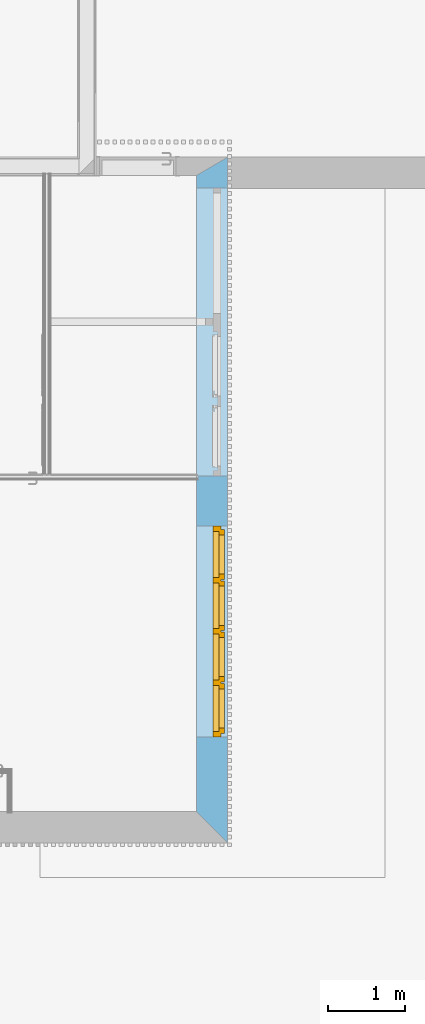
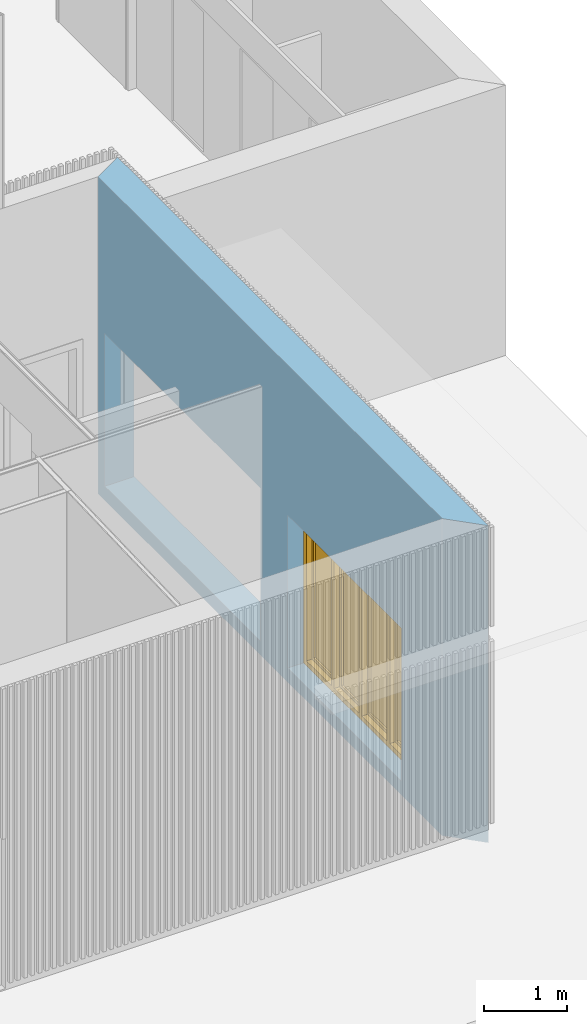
# One storey, part 10 of 34: 1 window, 2 openings, plus 1 element that does not belong to this part.
"""IFC2X3 building model written with IfcOpenShell, lengths in metres."""

import ifcopenshell
import ifcopenshell.guid

model = None  # the IFC model being written
_history = None  # IfcOwnerHistory: only IFC2X3 demands one
_inside = {}  # id of a spatial element -> (the spatial element, [elements in it])
_under = {}  # id of a project, library or spatial element -> (it, [spatial elements below it])
_declared = {}  # id of a project -> (the project, [libraries it declares])
_typed = {}  # id of a type object -> (the type object, [elements of that type])
_made_of = {}  # id of a material, layer set ... -> (it, [elements and type objects made of it])


def new_model(schema):
    """Start an empty IFC model of exactly this schema.

    Asked for "IFC4X3", IfcOpenShell would pick the latest addendum, in which some entities
    have other attributes; the version numbers below select the first issue.
    IFC2X3 requires an IfcOwnerHistory on every rooted entity: one is made here for all.
    """
    global model, _history
    if schema == "IFC4X3":
        model = ifcopenshell.file(schema_version=(4, 3, 0, 0))
    else:
        model = ifcopenshell.file(schema=schema)
    _inside.clear()
    _under.clear()
    _declared.clear()
    _typed.clear()
    _made_of.clear()
    _history = None
    if model.schema == "IFC2X3":
        org = make("IfcOrganization", Name="unknown")
        user = make(
            "IfcPersonAndOrganization",
            ThePerson=make("IfcPerson", FamilyName="unknown"),
            TheOrganization=org,
        )
        app = make(
            "IfcApplication",
            ApplicationDeveloper=org,
            Version="unknown",
            ApplicationFullName="unknown",
            ApplicationIdentifier="unknown",
        )
        _history = make(
            "IfcOwnerHistory",
            OwningUser=user,
            OwningApplication=app,
            ChangeAction="ADDED",
            CreationDate=0,
        )
    return model


def make(cls, **values):
    """One entity of the class cls with the attributes given. An attribute that is None is left unset."""
    return model.create_entity(
        cls, **{name: value for name, value in values.items() if value is not None}
    )


def entity(cls, *values):
    """Any entity or typed value of the class cls, its attributes in the order of the schema. None: left unset."""
    e = model.create_entity(cls)
    for i, value in enumerate(values):
        if value is not None:
            e[i] = value
    return e


def rooted(cls, **values):
    """An entity with a GlobalId (a new one), such as an element, a storey or a relation."""
    return make(cls, GlobalId=ifcopenshell.guid.new(), OwnerHistory=_history, **values)


def si_unit(unit_type, name, prefix=None):
    """IfcSIUnit, for example si_unit("LENGTHUNIT", "METRE", prefix="MILLI")."""
    return make("IfcSIUnit", UnitType=unit_type, Prefix=prefix, Name=name)


def converted_unit(unit_type, name, factor, base, dimensions=None, offset=None):
    """IfcConversionBasedUnit, such as the inch: factor (a typed value) times the base unit."""
    return make(
        "IfcConversionBasedUnit"
        if offset is None
        else "IfcConversionBasedUnitWithOffset",
        ConversionOffset=offset,
        Dimensions=None
        if dimensions is None
        else entity("IfcDimensionalExponents", *dimensions),
        UnitType=unit_type,
        Name=name,
        ConversionFactor=make(
            "IfcMeasureWithUnit", ValueComponent=factor, UnitComponent=base
        ),
    )


def derived_unit(unit_type, elements):
    """IfcDerivedUnit: a product of units, each with its exponent."""
    return make(
        "IfcDerivedUnit",
        Elements=[
            make("IfcDerivedUnitElement", Unit=unit, Exponent=power)
            for unit, power in elements
        ],
        UnitType=unit_type,
    )


def money_unit(currency):
    """IfcMonetaryUnit."""
    return make("IfcMonetaryUnit", Currency=currency)


def assignment(units):
    """IfcUnitAssignment: the units of a project."""
    return None if units is None else make("IfcUnitAssignment", Units=units)


def point(xyz):
    """IfcCartesianPoint."""
    return None if xyz is None else make("IfcCartesianPoint", Coordinates=xyz)


def direction(xyz):
    """IfcDirection."""
    return None if xyz is None else make("IfcDirection", DirectionRatios=xyz)


def frame(location, z_axis=None, x_axis=None):
    """IfcAxis2Placement3D, a coordinate frame: its origin and axes. An axis left out is left unset."""
    return make(
        "IfcAxis2Placement3D",
        Location=point(location),
        Axis=direction(z_axis),
        RefDirection=direction(x_axis),
    )


def frame_2d(location, x_axis=None):
    """IfcAxis2Placement2D, a coordinate frame in the plane: its origin and x axis."""
    return make(
        "IfcAxis2Placement2D", Location=point(location), RefDirection=direction(x_axis)
    )


def origin_with_axes():
    """The frame at (0, 0, 0) with the z axis (0, 0, 1) and the x axis (1, 0, 0) written out."""
    return frame((0.0, 0.0, 0.0), z_axis=(0.0, 0.0, 1.0), x_axis=(1.0, 0.0, 0.0))


def origin_2d_with_axis():
    """The frame at (0, 0) in the plane with the x axis (1, 0) written out."""
    return frame_2d((0.0, 0.0), x_axis=(1.0, 0.0))


def place(relative_to, where):
    """IfcLocalPlacement: puts the frame where relative to a parent placement (None: the world)."""
    return make(
        "IfcLocalPlacement", PlacementRelTo=relative_to, RelativePlacement=where
    )


def context(
    kind, dimensions, precision=None, world=None, true_north=None, identifier=None
):
    """IfcGeometricRepresentationContext, for example the 3D "Model" context."""
    return make(
        "IfcGeometricRepresentationContext",
        ContextIdentifier=identifier,
        ContextType=kind,
        CoordinateSpaceDimension=dimensions,
        Precision=precision,
        WorldCoordinateSystem=world,
        TrueNorth=true_north,
    )


def subcontext(parent, identifier, kind, view, scale=None):
    """IfcGeometricRepresentationSubContext, for example "Body" below "Model"."""
    return make(
        "IfcGeometricRepresentationSubContext",
        ContextIdentifier=identifier,
        ContextType=kind,
        ParentContext=parent,
        TargetScale=scale,
        TargetView=view,
    )


def project(units=None, contexts=None):
    """IfcProject with its units and contexts."""
    return rooted(
        "IfcProject",
        Name="project",
        RepresentationContexts=contexts,
        UnitsInContext=assignment(units),
    )


def spatial(cls, under=None, at=None, **own):
    """A site, building, storey or space (cls), placed at a placement, below another one or the project."""
    s = rooted(cls, ObjectPlacement=at, **own)
    if under is not None:
        _under.setdefault(under.id(), (under, []))[1].append(s)
    return s


def polyline(points):
    """IfcPolyline through the points."""
    return make("IfcPolyline", Points=[point(p) for p in points])


def profile(cls, at=None, kind="AREA", **sizes):
    """A parametric profile (cls). Its sizes go by their IFC names, for example OverallWidth=200.0."""
    return make(cls, ProfileType=kind, Position=at, **sizes)


def rectangle(**sizes):
    """IfcRectangleProfileDef."""
    return profile("IfcRectangleProfileDef", **sizes)


def outline(outer, holes=None, kind="AREA"):
    """IfcArbitraryClosedProfileDef: a profile drawn as a closed curve; with holes, ...WithVoids."""
    if holes is None:
        return make("IfcArbitraryClosedProfileDef", ProfileType=kind, OuterCurve=outer)
    return make(
        "IfcArbitraryProfileDefWithVoids",
        ProfileType=kind,
        OuterCurve=outer,
        InnerCurves=holes,
    )


def extrude(swept, where, along, depth):
    """IfcExtrudedAreaSolid: the profile swept, set in the frame where, extruded along a direction by depth."""
    return make(
        "IfcExtrudedAreaSolid",
        SweptArea=swept,
        Position=where,
        ExtrudedDirection=direction(along),
        Depth=depth,
    )


def faces_of(points, faces, orient=None, outer=None):
    """IfcFace entities. A face is a list of loops; a loop is a list of indices into points, from 0.

    orient and outer hold one flag for each loop. By default every Orientation is true, the
    first loop of a face is its IfcFaceOuterBound and the others are IfcFaceBound.
    """
    made = []
    for i, loops in enumerate(faces):
        bounds = []
        for j, loop in enumerate(loops):
            is_outer = j == 0 if outer is None else outer[i][j]
            bounds.append(
                make(
                    "IfcFaceOuterBound" if is_outer else "IfcFaceBound",
                    Bound=make("IfcPolyLoop", Polygon=[points[k] for k in loop]),
                    Orientation=True if orient is None else orient[i][j],
                )
            )
        made.append(make("IfcFace", Bounds=bounds))
    return made


def open_shell(faces, orient=None, outer=None):
    """The faces of one IfcOpenShell. surface_model builds it on its shared points."""
    return ("IfcOpenShell", faces, orient, outer)


def faceted_brep(points, faces, orient=None, outer=None, voids=None):
    """IfcFacetedBrep: a solid bounded by flat faces; with voids (closed shells), ...WithVoids."""
    shared = [point(p) for p in points]
    hull = make("IfcClosedShell", CfsFaces=faces_of(shared, faces, orient, outer))
    if voids is None:
        return make("IfcFacetedBrep", Outer=hull)
    return make(
        "IfcFacetedBrepWithVoids",
        Outer=hull,
        Voids=[
            make(cls, CfsFaces=faces_of(shared, fs, o, b)) for cls, fs, o, b in voids
        ],
    )


def surface_model(cls, points, shells):
    """IfcFaceBasedSurfaceModel or IfcShellBasedSurfaceModel (cls): surfaces that need not close."""
    shared = [point(p) for p in points]
    made = [make(c, CfsFaces=faces_of(shared, fs, o, b)) for c, fs, o, b in shells]
    if cls == "IfcFaceBasedSurfaceModel":
        return make(cls, FbsmFaces=made)
    return make(cls, SbsmBoundary=made)


def shape(context_of_items, identifier, shape_type, items):
    """IfcShapeRepresentation: the items that make up one representation, for example the "Body"."""
    return make(
        "IfcShapeRepresentation",
        ContextOfItems=context_of_items,
        RepresentationIdentifier=identifier,
        RepresentationType=shape_type,
        Items=items,
    )


def material(Name=None, Category=None):
    """IfcMaterial."""
    return make("IfcMaterial", Name=Name, Category=Category)


def layer(
    of_material, thickness, ventilated=None, Name=None, Category=None, Priority=None
):
    """IfcMaterialLayer: one layer of a wall or slab, of a material (None: an air gap)."""
    return make(
        "IfcMaterialLayer",
        Material=of_material,
        LayerThickness=thickness,
        IsVentilated=ventilated,
        Name=Name,
        Category=Category,
        Priority=Priority,
    )


def layer_set(layers, Name=None):
    """IfcMaterialLayerSet."""
    return make("IfcMaterialLayerSet", MaterialLayers=layers, LayerSetName=Name)


def layer_usage(for_layer_set, set_direction, sense, offset, extent=None):
    """IfcMaterialLayerSetUsage: how a layer set lies in its element."""
    return make(
        "IfcMaterialLayerSetUsage",
        ForLayerSet=for_layer_set,
        LayerSetDirection=set_direction,
        DirectionSense=sense,
        OffsetFromReferenceLine=offset,
        ReferenceExtent=extent,
    )


def made_of(thing, what):
    """Note that an element or type object is made of a material, layer set ...; save() writes the relation."""
    if what is not None:
        _made_of.setdefault(what.id(), (what, []))[1].append(thing)
    return thing


def type_object(cls, material=None, **own):
    """A type object (cls), such as IfcWallType, which elements share."""
    return made_of(rooted(cls, **own), material)


def element(
    cls,
    number,
    at=None,
    inside=None,
    cuts=None,
    type_object=None,
    material=None,
    context=None,
    identifier="Body",
    shape_type=None,
    held_by="IfcProductDefinitionShape",
    body=None,
    shapes=None,
    **own,
):
    """One element of the class cls, such as IfcWall. Its Tag is "e" and its number.

    at: its placement. inside: the storey or other place that contains it. cuts: it is an
    opening in that element (IfcRelVoidsElement). A single representation is given by context,
    identifier, shape_type and body (its items); several are given by shapes. held_by: the class
    of the entity that holds the representations. save() writes the other relations.
    """
    e = rooted(cls, Tag="e%d" % number, ObjectPlacement=at, **own)
    if body is not None:
        shapes = [shape(context, identifier, shape_type, body)]
    if shapes is not None:
        e.Representation = make(held_by, Representations=shapes)
    if inside is not None:
        _inside.setdefault(inside.id(), (inside, []))[1].append(e)
    if cuts is not None:
        rooted(
            "IfcRelVoidsElement", RelatingBuildingElement=cuts, RelatedOpeningElement=e
        )
    if type_object is not None:
        _typed.setdefault(type_object.id(), (type_object, []))[1].append(e)
    return made_of(e, material)


def fill(opening, filler):
    """IfcRelFillsElement: the door or window that sits in an opening."""
    return rooted(
        "IfcRelFillsElement",
        RelatingOpeningElement=opening,
        RelatedBuildingElement=filler,
    )


def aggregate(whole, parts):
    """IfcRelAggregates: a whole, such as a stair, and the parts it consists of."""
    return rooted("IfcRelAggregates", RelatingObject=whole, RelatedObjects=parts)


def save(model, path):
    """Write the relations noted so far, then the file.

    IfcRelAggregates (storeys below a building ...), IfcRelContainedInSpatialStructure (elements
    in a storey), IfcRelDefinesByType, IfcRelAssociatesMaterial and IfcRelDeclares: one each for
    every whole, place, type object, material and project.
    """
    for whole, parts in _under.values():
        aggregate(whole, parts)
    for where, things in _inside.values():
        rooted(
            "IfcRelContainedInSpatialStructure",
            RelatedElements=things,
            RelatingStructure=where,
        )
    for kind, things in _typed.values():
        rooted("IfcRelDefinesByType", RelatedObjects=things, RelatingType=kind)
    for what, things in _made_of.values():
        rooted("IfcRelAssociatesMaterial", RelatedObjects=things, RelatingMaterial=what)
    for by, libraries in _declared.values():
        rooted("IfcRelDeclares", RelatingContext=by, RelatedDefinitions=libraries)
    model.write(path)


model = new_model("IFC2X3")

# Units and contexts
model_context = context("Model", 3, precision=1e-05, world=origin_with_axes(), true_north=direction((0.0, 1.0)))
body_context = subcontext(model_context, "Body", "Model", "MODEL_VIEW")
ifc_project = project(units=[si_unit("LENGTHUNIT", "METRE"), si_unit("AREAUNIT", "SQUARE_METRE"), si_unit("VOLUMEUNIT", "CUBIC_METRE"), converted_unit("PLANEANGLEUNIT", "DEGREE", entity("IfcPlaneAngleMeasure", 0.0174532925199), si_unit("PLANEANGLEUNIT", "RADIAN"), dimensions=[0, 0, 0, 0, 0, 0, 0]), money_unit("CHF"), converted_unit("TIMEUNIT", "Year", entity("IfcTimeMeasure", 31556926.0), si_unit("TIMEUNIT", "SECOND"), dimensions=[0, 0, 1, 0, 0, 0, 0]), si_unit("MASSUNIT", "GRAM", prefix="KILO"), si_unit("THERMODYNAMICTEMPERATUREUNIT", "DEGREE_CELSIUS"), si_unit("LUMINOUSINTENSITYUNIT", "LUMEN"), si_unit("ENERGYUNIT", "JOULE", prefix="MEGA"), derived_unit("THERMALCONDUCTANCEUNIT", [(si_unit("POWERUNIT", "WATT"), 1), (si_unit("LENGTHUNIT", "METRE"), -1), (si_unit("THERMODYNAMICTEMPERATUREUNIT", "KELVIN"), -1)]), derived_unit("SPECIFICHEATCAPACITYUNIT", [(si_unit("ENERGYUNIT", "JOULE"), 1), (si_unit("MASSUNIT", "GRAM", prefix="KILO"), -1), (si_unit("THERMODYNAMICTEMPERATUREUNIT", "KELVIN"), -1)]), derived_unit("MASSDENSITYUNIT", [(si_unit("MASSUNIT", "GRAM", prefix="KILO"), 1), (si_unit("VOLUMEUNIT", "CUBIC_METRE"), -1)])], contexts=[model_context])

# Site, building, storey
site_placement = place(None, origin_with_axes())
site = spatial("IfcSite", under=ifc_project, at=site_placement, Name="Site", CompositionType="ELEMENT")
building_placement = place(site_placement, origin_with_axes())
building = spatial("IfcBuilding", under=site, at=building_placement, Name="Bâtiment", CompositionType="ELEMENT")
storey_placement = place(building_placement, origin_with_axes())
storey = spatial("IfcBuildingStorey", under=building, at=storey_placement, Name="Rez-de-chaussée", CompositionType="ELEMENT", Elevation=0.0)

# Wall, openings, window
ifc_material_1 = material(Name="Finition int - Enduit minéral")
ifc_layer_1 = layer(ifc_material_1, 0.01, ventilated="UNKNOWN")
ifc_material_2 = material(Name="Isolation - Fibres de bois")
ifc_layer_2 = layer(ifc_material_2, 0.18, ventilated="UNKNOWN")
ifc_material_3 = material(Name="Béton armé (Coulé)")
ifc_layer_3 = layer(ifc_material_3, 0.2, ventilated="UNKNOWN")
ifc_material_4 = material(Name="Finition int - Enduit plâtre")
ifc_layer_4 = layer(ifc_material_4, 0.02, ventilated="UNKNOWN")
ifc_layer_set = layer_set([ifc_layer_1, ifc_layer_2, ifc_layer_3, ifc_layer_4], Name="Mur 20cm + iso 18 + enduit")
ifc_layer_usage = layer_usage(ifc_layer_set, "AXIS2", "NEGATIVE", 0.29)
wall_type = type_object("IfcWallType", Name="Mur 20cm + iso 18 + enduit  410", PredefinedType="NOTDEFINED")
wall_placement = place(storey_placement, frame((33.7494697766, 15.07, -0.21), z_axis=(0.0, 0.0, 1.0), x_axis=(0.0, -1.0, 0.0)))
wall = element("IfcWallStandardCase", 1, at=wall_placement, inside=storey, type_object=wall_type, material=ifc_layer_usage, Name="Mur ext 20+18isolant", context=body_context, shape_type="SweptSolid", body=[
    extrude(outline(polyline([(0.19, -0.12), (8.48987433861, -0.12), (8.89987433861, 0.29), (-0.05, 0.29), (0.19, -0.12)])), origin_with_axes(), (0.0, 0.0, 1.0), 4.67),
])
opening_1_placement = place(wall_placement, frame((6.14, 0.0, 0.21), z_axis=(0.0, 0.0, 1.0), x_axis=(1.0, 0.0, 0.0)))
opening_1 = element("IfcOpeningElement", 2, at=opening_1_placement, cuts=wall, Name="FENETRE-005", context=body_context, shape_type="SweptSolid", body=[
    extrude(rectangle(XDim=2.75, YDim=2.25, at=origin_2d_with_axis()), frame((0.0, 0.2, 1.125), z_axis=(0.0, -1.0, 0.0), x_axis=(-1.0, 0.0, 0.0)), (0.0, 0.0, 1.0), 0.73),
    extrude(rectangle(XDim=2.75, YDim=2.25, at=origin_2d_with_axis()), frame((0.0, 0.2, 1.125), z_axis=(0.0, 1.0, 0.0), x_axis=(-1.0, 0.0, 0.0)), (0.0, 0.0, 1.0), 0.5),
])
opening_2_placement = place(wall_placement, frame((2.23000001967, 0.0, 0.21), z_axis=(0.0, 0.0, 1.0), x_axis=(1.0, 0.0, 0.0)))
element("IfcOpeningElement", 3, at=opening_2_placement, cuts=wall, Name="PORTE-PP90 A2 - PF1/2H", context=body_context, shape_type="SweptSolid", body=[
    extrude(rectangle(XDim=3.76, YDim=2.25, at=origin_2d_with_axis()), frame((0.0, 0.2, 1.125), z_axis=(0.0, 1.0, 0.0), x_axis=(1.0, 0.0, 0.0)), (0.0, 0.0, -1.0), 0.73),
    extrude(rectangle(XDim=3.76, YDim=2.25, at=origin_2d_with_axis()), frame((0.0, 0.2, 1.125), z_axis=(0.0, -1.0, 0.0), x_axis=(1.0, 0.0, 0.0)), (0.0, 0.0, -1.0), 0.5),
])
window_style = type_object("IfcWindowStyle", Name="Fenêtre horizontale à châssis multiples 26", ConstructionType="NOTDEFINED", OperationType="USERDEFINED", ParameterTakesPrecedence=False, Sizeable=False)
window_placement = place(opening_1_placement, frame((-1.375, 0.0, 0.0), z_axis=(0.0, 0.0, 1.0), x_axis=(1.0, 0.0, 0.0)))
window = element("IfcWindow", 4, at=window_placement, inside=storey, type_object=window_style, Name="FENETRE-005", ObjectType="WINDOW", OverallHeight=2.25, OverallWidth=2.75, context=body_context, shape_type="SurfaceModel", body=[
    faceted_brep([(2.705, 0.2, 2.18), (2.705, 0.175, 2.18), (2.68, 0.175, 2.18), (2.68, 0.1, 2.18), (2.75, 0.1, 2.18), (2.75, 0.2, 2.18), (2.705, 0.2, 0.07), (2.705, 0.175, 0.07), (2.68, 0.175, 0.07), (2.68, 0.1, 0.07), (2.75, 0.1, 0.07), (2.75, 0.2, 0.07)], [[[0, 1, 2, 3, 4, 5]], [[1, 0, 6, 7]], [[8, 2, 1, 7]], [[2, 8, 9, 3]], [[4, 3, 9, 10]], [[5, 4, 10, 11]], [[6, 0, 5, 11]], [[7, 6, 11, 10, 9, 8]]]),
    faceted_brep([(0.07, 0.175, 2.18), (0.045, 0.175, 2.18), (0.045, 0.2, 2.18), (0.0, 0.2, 2.18), (0.0, 0.1, 2.18), (0.07, 0.1, 2.18), (0.07, 0.175, 0.07), (0.045, 0.175, 0.07), (0.045, 0.2, 0.07), (0.0, 0.2, 0.07), (0.0, 0.1, 0.07), (0.07, 0.1, 0.07)], [[[0, 1, 2, 3, 4, 5]], [[1, 0, 6, 7]], [[8, 2, 1, 7]], [[2, 8, 9, 3]], [[9, 10, 4, 3]], [[10, 11, 5, 4]], [[6, 0, 5, 11]], [[7, 6, 11, 10, 9, 8]]]),
    faceted_brep([(1.365, 0.2, 2.18), (1.365, 0.2, 2.205), (0.715, 0.2, 2.205), (0.715, 0.2, 2.18), (0.695, 0.2, 2.18), (0.695, 0.2, 2.205), (0.045, 0.2, 2.205), (0.045, 0.2, 2.18), (0.0, 0.2, 2.18), (0.0, 0.2, 2.25), (2.75, 0.2, 2.25), (2.75, 0.2, 2.18), (2.705, 0.2, 2.18), (2.705, 0.2, 2.205), (2.055, 0.2, 2.205), (2.055, 0.2, 2.18), (2.035, 0.2, 2.18), (2.035, 0.2, 2.205), (1.385, 0.2, 2.205), (1.385, 0.2, 2.18), (1.365, 0.175, 2.18), (1.365, 0.175, 2.205), (0.715, 0.175, 2.205), (0.715, 0.175, 2.18), (0.74, 0.175, 2.18), (0.74, 0.1, 2.18), (0.67, 0.1, 2.18), (0.67, 0.175, 2.18), (0.695, 0.175, 2.18), (0.695, 0.175, 2.205), (0.045, 0.175, 2.205), (0.045, 0.175, 2.18), (0.07, 0.175, 2.18), (0.07, 0.1, 2.18), (0.0, 0.1, 2.18), (0.0, 0.1, 2.25), (2.75, 0.1, 2.25), (2.75, 0.1, 2.18), (2.705, 0.175, 2.18), (2.68, 0.1, 2.18), (2.68, 0.175, 2.18), (2.705, 0.175, 2.205), (2.055, 0.175, 2.205), (2.055, 0.175, 2.18), (2.035, 0.175, 2.18), (2.08, 0.175, 2.18), (2.08, 0.1, 2.18), (2.01, 0.1, 2.18), (2.01, 0.175, 2.18), (2.035, 0.175, 2.205), (1.385, 0.175, 2.205), (1.385, 0.175, 2.18), (1.41, 0.175, 2.18), (1.41, 0.1, 2.18), (1.34, 0.1, 2.18), (1.34, 0.175, 2.18)], [[[0, 1, 2, 3, 4, 5, 6, 7, 8, 9, 10, 11, 12, 13, 14, 15, 16, 17, 18, 19]], [[1, 0, 20, 21]], [[2, 1, 21, 22]], [[3, 2, 22, 23]], [[23, 24, 25, 26, 27, 28, 4, 3]], [[5, 4, 28, 29]], [[6, 5, 29, 30]], [[7, 6, 30, 31]], [[31, 32, 33, 34, 8, 7]], [[8, 34, 35, 9]], [[9, 35, 36, 10]], [[10, 36, 37, 11]], [[38, 12, 11, 37, 39, 40]], [[13, 12, 38, 41]], [[14, 13, 41, 42]], [[15, 14, 42, 43]], [[44, 16, 15, 43, 45, 46, 47, 48]], [[17, 16, 44, 49]], [[18, 17, 49, 50]], [[19, 18, 50, 51]], [[20, 0, 19, 51, 52, 53, 54, 55]], [[24, 23, 22, 21, 20, 55]], [[24, 55, 54, 25]], [[34, 33, 26, 25, 54, 53, 47, 46, 39, 37, 36, 35]], [[32, 27, 26, 33]], [[32, 31, 30, 29, 28, 27]], [[45, 40, 39, 46]], [[45, 43, 42, 41, 38, 40]], [[52, 48, 47, 53]], [[52, 51, 50, 49, 44, 48]]]),
    faceted_brep([(0.74, 0.175, 0.07), (0.715, 0.175, 0.07), (0.715, 0.2, 0.07), (0.695, 0.2, 0.07), (0.695, 0.175, 0.07), (0.67, 0.175, 0.07), (0.67, 0.1, 0.07), (0.74, 0.1, 0.07), (1.34, 0.175, 0.07), (1.365, 0.175, 0.07), (1.365, 0.175, 0.045), (0.715, 0.175, 0.045), (0.715, 0.2, 0.045), (1.365, 0.2, 0.045), (1.365, 0.2, 0.07), (1.385, 0.2, 0.07), (1.385, 0.2, 0.045), (2.035, 0.2, 0.045), (2.035, 0.2, 0.07), (2.055, 0.2, 0.07), (2.055, 0.2, 0.045), (2.705, 0.2, 0.045), (2.705, 0.2, 0.07), (2.75, 0.2, 0.07), (2.75, 0.2, 0.0), (0.0, 0.2, 0.0), (0.0, 0.2, 0.07), (0.045, 0.2, 0.07), (0.045, 0.2, 0.045), (0.695, 0.2, 0.045), (0.695, 0.175, 0.045), (0.045, 0.175, 0.07), (0.07, 0.175, 0.07), (0.045, 0.175, 0.045), (0.07, 0.1, 0.07), (0.0, 0.1, 0.07), (0.0, 0.1, 0.0), (2.75, 0.1, 0.0), (2.75, 0.1, 0.07), (2.68, 0.1, 0.07), (2.08, 0.1, 0.07), (2.01, 0.1, 0.07), (1.41, 0.1, 0.07), (1.34, 0.1, 0.07), (1.41, 0.175, 0.07), (1.385, 0.175, 0.07), (1.385, 0.175, 0.045), (2.035, 0.175, 0.045), (2.035, 0.175, 0.07), (2.01, 0.175, 0.07), (2.08, 0.175, 0.07), (2.055, 0.175, 0.07), (2.055, 0.175, 0.045), (2.705, 0.175, 0.045), (2.705, 0.175, 0.07), (2.68, 0.175, 0.07)], [[[0, 1, 2, 3, 4, 5, 6, 7]], [[1, 0, 8, 9, 10, 11]], [[12, 2, 1, 11]], [[13, 14, 15, 16, 17, 18, 19, 20, 21, 22, 23, 24, 25, 26, 27, 28, 29, 3, 2, 12]], [[4, 3, 29, 30]], [[31, 32, 5, 4, 30, 33]], [[5, 32, 34, 6]], [[7, 6, 34, 35, 36, 37, 38, 39, 40, 41, 42, 43]], [[8, 0, 7, 43]], [[9, 8, 43, 42, 44, 45, 15, 14]], [[9, 14, 13, 10]], [[13, 12, 11, 10]], [[16, 15, 45, 46]], [[17, 16, 46, 47]], [[48, 18, 17, 47]], [[48, 49, 41, 40, 50, 51, 19, 18]], [[20, 19, 51, 52]], [[21, 20, 52, 53]], [[54, 22, 21, 53]], [[54, 55, 39, 38, 23, 22]], [[23, 38, 37, 24]], [[24, 37, 36, 25]], [[25, 36, 35, 26]], [[32, 31, 27, 26, 35, 34]], [[28, 27, 31, 33]], [[29, 28, 33, 30]], [[55, 50, 40, 39]], [[49, 44, 42, 41]], [[45, 44, 49, 48, 47, 46]], [[51, 50, 55, 54, 53, 52]]]),
    faceted_brep([(2.035, 0.2, 2.18), (2.035, 0.175, 2.18), (2.01, 0.175, 2.18), (2.01, 0.1, 2.18), (2.08, 0.1, 2.18), (2.08, 0.175, 2.18), (2.055, 0.175, 2.18), (2.055, 0.2, 2.18), (2.035, 0.2, 0.07), (2.035, 0.175, 0.07), (2.01, 0.175, 0.07), (2.01, 0.1, 0.07), (2.08, 0.1, 0.07), (2.08, 0.175, 0.07), (2.055, 0.175, 0.07), (2.055, 0.2, 0.07)], [[[0, 1, 2, 3, 4, 5, 6, 7]], [[1, 0, 8, 9]], [[10, 2, 1, 9]], [[2, 10, 11, 3]], [[3, 11, 12, 4]], [[13, 5, 4, 12]], [[6, 5, 13, 14]], [[15, 7, 6, 14]], [[8, 0, 7, 15]], [[9, 8, 15, 14, 13, 12, 11, 10]]]),
    faceted_brep([(1.365, 0.2, 2.18), (1.365, 0.175, 2.18), (1.34, 0.175, 2.18), (1.34, 0.1, 2.18), (1.41, 0.1, 2.18), (1.41, 0.175, 2.18), (1.385, 0.175, 2.18), (1.385, 0.2, 2.18), (1.365, 0.2, 0.07), (1.365, 0.175, 0.07), (1.34, 0.175, 0.07), (1.34, 0.1, 0.07), (1.41, 0.1, 0.07), (1.41, 0.175, 0.07), (1.385, 0.175, 0.07), (1.385, 0.2, 0.07)], [[[0, 1, 2, 3, 4, 5, 6, 7]], [[1, 0, 8, 9]], [[10, 2, 1, 9]], [[2, 10, 11, 3]], [[3, 11, 12, 4]], [[13, 5, 4, 12]], [[6, 5, 13, 14]], [[15, 7, 6, 14]], [[8, 0, 7, 15]], [[9, 8, 15, 14, 13, 12, 11, 10]]]),
    faceted_brep([(0.74, 0.175, 2.18), (0.715, 0.175, 2.18), (0.715, 0.2, 2.18), (0.695, 0.2, 2.18), (0.695, 0.175, 2.18), (0.67, 0.175, 2.18), (0.67, 0.1, 2.18), (0.74, 0.1, 2.18), (0.74, 0.175, 0.07), (0.715, 0.175, 0.07), (0.715, 0.2, 0.07), (0.695, 0.2, 0.07), (0.695, 0.175, 0.07), (0.67, 0.175, 0.07), (0.67, 0.1, 0.07), (0.74, 0.1, 0.07)], [[[0, 1, 2, 3, 4, 5, 6, 7]], [[1, 0, 8, 9]], [[10, 2, 1, 9]], [[2, 10, 11, 3]], [[4, 3, 11, 12]], [[13, 5, 4, 12]], [[5, 13, 14, 6]], [[6, 14, 15, 7]], [[8, 0, 7, 15]], [[9, 8, 15, 14, 13, 12, 11, 10]]]),
    faceted_brep([(2.635, 0.175, 2.135), (2.705, 0.175, 2.135), (2.705, 0.245, 2.135), (2.635, 0.245, 2.135), (2.635, 0.175, 0.115), (2.705, 0.175, 0.115), (2.705, 0.245, 0.115), (2.635, 0.245, 0.115)], [[[0, 1, 2, 3]], [[0, 4, 5, 1]], [[1, 5, 6, 2]], [[3, 2, 6, 7]], [[4, 0, 3, 7]], [[5, 4, 7, 6]]]),
    faceted_brep([(2.125, 0.175, 0.115), (2.055, 0.175, 0.115), (2.055, 0.245, 0.115), (2.125, 0.245, 0.115), (2.125, 0.175, 2.135), (2.055, 0.175, 2.135), (2.055, 0.245, 2.135), (2.125, 0.245, 2.135)], [[[0, 1, 2, 3]], [[0, 4, 5, 1]], [[1, 5, 6, 2]], [[3, 2, 6, 7]], [[4, 0, 3, 7]], [[5, 4, 7, 6]]]),
    faceted_brep([(2.055, 0.175, 0.045), (2.055, 0.175, 0.115), (2.055, 0.245, 0.115), (2.055, 0.245, 0.045), (2.705, 0.175, 0.045), (2.705, 0.175, 0.115), (2.635, 0.175, 0.115), (2.125, 0.175, 0.115), (2.125, 0.245, 0.115), (2.635, 0.245, 0.115), (2.705, 0.245, 0.115), (2.705, 0.245, 0.045)], [[[0, 1, 2, 3]], [[0, 4, 5, 6, 7, 1]], [[1, 7, 8, 2]], [[3, 2, 8, 9, 10, 11]], [[4, 0, 3, 11]], [[5, 4, 11, 10]], [[6, 5, 10, 9]], [[7, 6, 9, 8]]]),
    faceted_brep([(2.705, 0.175, 2.205), (2.705, 0.175, 2.135), (2.705, 0.245, 2.135), (2.705, 0.245, 2.205), (2.055, 0.175, 2.205), (2.055, 0.175, 2.135), (2.125, 0.175, 2.135), (2.635, 0.175, 2.135), (2.635, 0.245, 2.135), (2.125, 0.245, 2.135), (2.055, 0.245, 2.135), (2.055, 0.245, 2.205)], [[[0, 1, 2, 3]], [[0, 4, 5, 6, 7, 1]], [[1, 7, 8, 2]], [[3, 2, 8, 9, 10, 11]], [[4, 0, 3, 11]], [[5, 4, 11, 10]], [[6, 5, 10, 9]], [[7, 6, 9, 8]]]),
    surface_model("IfcShellBasedSurfaceModel", [(2.635, 0.2, 0.115), (2.635, 0.2, 2.135), (2.125, 0.2, 2.135), (2.125, 0.2, 0.115)], [open_shell([[[0, 1, 2, 3]]])]),
    surface_model("IfcShellBasedSurfaceModel", [(2.635, 0.22, 0.115), (2.125, 0.22, 0.115), (2.125, 0.22, 2.135), (2.635, 0.22, 2.135)], [open_shell([[[0, 1, 2, 3]]])]),
    faceted_brep([(1.965, 0.175, 2.135), (2.035, 0.175, 2.135), (2.035, 0.245, 2.135), (1.965, 0.245, 2.135), (1.965, 0.175, 0.115), (2.035, 0.175, 0.115), (2.035, 0.245, 0.115), (1.965, 0.245, 0.115)], [[[0, 1, 2, 3]], [[0, 4, 5, 1]], [[1, 5, 6, 2]], [[3, 2, 6, 7]], [[4, 0, 3, 7]], [[5, 4, 7, 6]]]),
    faceted_brep([(1.455, 0.175, 0.115), (1.385, 0.175, 0.115), (1.385, 0.245, 0.115), (1.455, 0.245, 0.115), (1.455, 0.175, 2.135), (1.385, 0.175, 2.135), (1.385, 0.245, 2.135), (1.455, 0.245, 2.135)], [[[0, 1, 2, 3]], [[0, 4, 5, 1]], [[1, 5, 6, 2]], [[3, 2, 6, 7]], [[4, 0, 3, 7]], [[5, 4, 7, 6]]]),
    faceted_brep([(1.385, 0.175, 0.045), (1.385, 0.175, 0.115), (1.385, 0.245, 0.115), (1.385, 0.245, 0.045), (2.035, 0.175, 0.045), (2.035, 0.175, 0.115), (1.965, 0.175, 0.115), (1.455, 0.175, 0.115), (1.455, 0.245, 0.115), (1.965, 0.245, 0.115), (2.035, 0.245, 0.115), (2.035, 0.245, 0.045)], [[[0, 1, 2, 3]], [[0, 4, 5, 6, 7, 1]], [[1, 7, 8, 2]], [[3, 2, 8, 9, 10, 11]], [[4, 0, 3, 11]], [[5, 4, 11, 10]], [[6, 5, 10, 9]], [[7, 6, 9, 8]]]),
    faceted_brep([(2.035, 0.175, 2.205), (2.035, 0.175, 2.135), (2.035, 0.245, 2.135), (2.035, 0.245, 2.205), (1.385, 0.175, 2.205), (1.385, 0.175, 2.135), (1.455, 0.175, 2.135), (1.965, 0.175, 2.135), (1.965, 0.245, 2.135), (1.455, 0.245, 2.135), (1.385, 0.245, 2.135), (1.385, 0.245, 2.205)], [[[0, 1, 2, 3]], [[0, 4, 5, 6, 7, 1]], [[1, 7, 8, 2]], [[3, 2, 8, 9, 10, 11]], [[4, 0, 3, 11]], [[5, 4, 11, 10]], [[6, 5, 10, 9]], [[7, 6, 9, 8]]]),
    surface_model("IfcShellBasedSurfaceModel", [(1.965, 0.2, 0.115), (1.965, 0.2, 2.135), (1.455, 0.2, 2.135), (1.455, 0.2, 0.115)], [open_shell([[[0, 1, 2, 3]]])]),
    surface_model("IfcShellBasedSurfaceModel", [(1.965, 0.22, 0.115), (1.455, 0.22, 0.115), (1.455, 0.22, 2.135), (1.965, 0.22, 2.135)], [open_shell([[[0, 1, 2, 3]]])]),
    faceted_brep([(1.295, 0.175, 2.135), (1.365, 0.175, 2.135), (1.365, 0.245, 2.135), (1.295, 0.245, 2.135), (1.295, 0.175, 0.115), (1.365, 0.175, 0.115), (1.365, 0.245, 0.115), (1.295, 0.245, 0.115)], [[[0, 1, 2, 3]], [[0, 4, 5, 1]], [[1, 5, 6, 2]], [[3, 2, 6, 7]], [[4, 0, 3, 7]], [[5, 4, 7, 6]]]),
    faceted_brep([(0.785, 0.175, 0.115), (0.715, 0.175, 0.115), (0.715, 0.245, 0.115), (0.785, 0.245, 0.115), (0.785, 0.175, 2.135), (0.715, 0.175, 2.135), (0.715, 0.245, 2.135), (0.785, 0.245, 2.135)], [[[0, 1, 2, 3]], [[0, 4, 5, 1]], [[1, 5, 6, 2]], [[3, 2, 6, 7]], [[4, 0, 3, 7]], [[5, 4, 7, 6]]]),
    faceted_brep([(0.715, 0.175, 0.045), (0.715, 0.175, 0.115), (0.715, 0.245, 0.115), (0.715, 0.245, 0.045), (1.365, 0.175, 0.045), (1.365, 0.175, 0.115), (1.295, 0.175, 0.115), (0.785, 0.175, 0.115), (0.785, 0.245, 0.115), (1.295, 0.245, 0.115), (1.365, 0.245, 0.115), (1.365, 0.245, 0.045)], [[[0, 1, 2, 3]], [[0, 4, 5, 6, 7, 1]], [[1, 7, 8, 2]], [[3, 2, 8, 9, 10, 11]], [[4, 0, 3, 11]], [[5, 4, 11, 10]], [[6, 5, 10, 9]], [[7, 6, 9, 8]]]),
    faceted_brep([(1.365, 0.175, 2.205), (1.365, 0.175, 2.135), (1.365, 0.245, 2.135), (1.365, 0.245, 2.205), (0.715, 0.175, 2.205), (0.715, 0.175, 2.135), (0.785, 0.175, 2.135), (1.295, 0.175, 2.135), (1.295, 0.245, 2.135), (0.785, 0.245, 2.135), (0.715, 0.245, 2.135), (0.715, 0.245, 2.205)], [[[0, 1, 2, 3]], [[0, 4, 5, 6, 7, 1]], [[1, 7, 8, 2]], [[3, 2, 8, 9, 10, 11]], [[4, 0, 3, 11]], [[5, 4, 11, 10]], [[6, 5, 10, 9]], [[7, 6, 9, 8]]]),
    surface_model("IfcShellBasedSurfaceModel", [(1.295, 0.2, 0.115), (1.295, 0.2, 2.135), (0.785, 0.2, 2.135), (0.785, 0.2, 0.115)], [open_shell([[[0, 1, 2, 3]]])]),
    surface_model("IfcShellBasedSurfaceModel", [(1.295, 0.22, 0.115), (0.785, 0.22, 0.115), (0.785, 0.22, 2.135), (1.295, 0.22, 2.135)], [open_shell([[[0, 1, 2, 3]]])]),
    faceted_brep([(0.625, 0.175, 2.135), (0.695, 0.175, 2.135), (0.695, 0.245, 2.135), (0.625, 0.245, 2.135), (0.625, 0.175, 0.115), (0.695, 0.175, 0.115), (0.695, 0.245, 0.115), (0.625, 0.245, 0.115)], [[[0, 1, 2, 3]], [[0, 4, 5, 1]], [[1, 5, 6, 2]], [[3, 2, 6, 7]], [[4, 0, 3, 7]], [[5, 4, 7, 6]]]),
    faceted_brep([(0.115, 0.175, 0.115), (0.045, 0.175, 0.115), (0.045, 0.245, 0.115), (0.115, 0.245, 0.115), (0.115, 0.175, 2.135), (0.045, 0.175, 2.135), (0.045, 0.245, 2.135), (0.115, 0.245, 2.135)], [[[0, 1, 2, 3]], [[0, 4, 5, 1]], [[1, 5, 6, 2]], [[3, 2, 6, 7]], [[4, 0, 3, 7]], [[5, 4, 7, 6]]]),
    faceted_brep([(0.045, 0.175, 0.045), (0.045, 0.175, 0.115), (0.045, 0.245, 0.115), (0.045, 0.245, 0.045), (0.695, 0.175, 0.045), (0.695, 0.175, 0.115), (0.625, 0.175, 0.115), (0.115, 0.175, 0.115), (0.115, 0.245, 0.115), (0.625, 0.245, 0.115), (0.695, 0.245, 0.115), (0.695, 0.245, 0.045)], [[[0, 1, 2, 3]], [[0, 4, 5, 6, 7, 1]], [[1, 7, 8, 2]], [[3, 2, 8, 9, 10, 11]], [[4, 0, 3, 11]], [[5, 4, 11, 10]], [[6, 5, 10, 9]], [[7, 6, 9, 8]]]),
    faceted_brep([(0.695, 0.175, 2.205), (0.695, 0.175, 2.135), (0.695, 0.245, 2.135), (0.695, 0.245, 2.205), (0.045, 0.175, 2.205), (0.045, 0.175, 2.135), (0.115, 0.175, 2.135), (0.625, 0.175, 2.135), (0.625, 0.245, 2.135), (0.115, 0.245, 2.135), (0.045, 0.245, 2.135), (0.045, 0.245, 2.205)], [[[0, 1, 2, 3]], [[0, 4, 5, 6, 7, 1]], [[1, 7, 8, 2]], [[3, 2, 8, 9, 10, 11]], [[4, 0, 3, 11]], [[5, 4, 11, 10]], [[6, 5, 10, 9]], [[7, 6, 9, 8]]]),
    surface_model("IfcShellBasedSurfaceModel", [(0.625, 0.2, 0.115), (0.625, 0.2, 2.135), (0.115, 0.2, 2.135), (0.115, 0.2, 0.115)], [open_shell([[[0, 1, 2, 3]]])]),
    surface_model("IfcShellBasedSurfaceModel", [(0.625, 0.22, 0.115), (0.115, 0.22, 0.115), (0.115, 0.22, 2.135), (0.625, 0.22, 2.135)], [open_shell([[[0, 1, 2, 3]]])]),
])
fill(opening_1, window)

save(model, "model.ifc")
